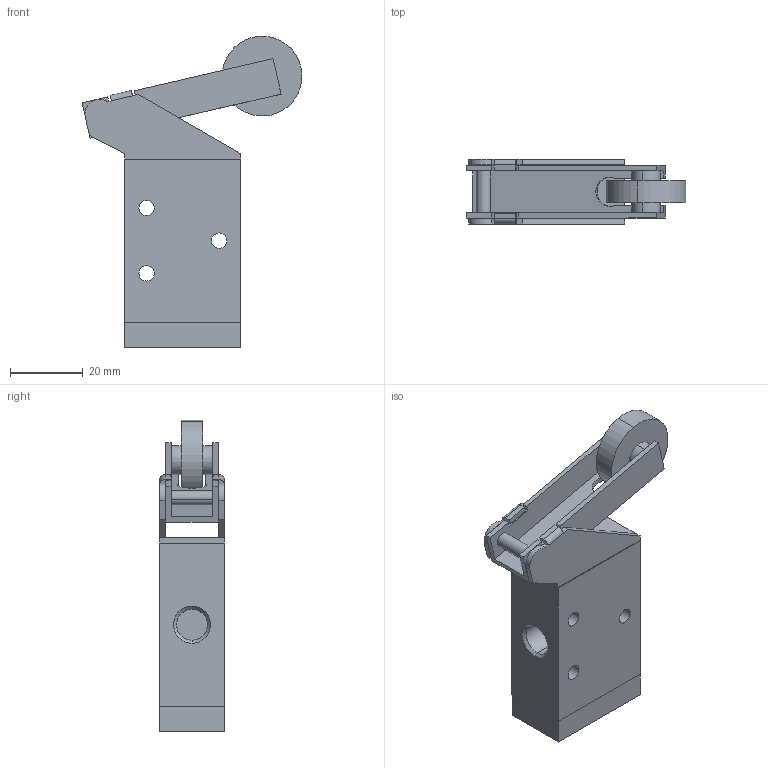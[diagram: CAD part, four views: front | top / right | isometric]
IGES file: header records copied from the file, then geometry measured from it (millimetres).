
Global section: file name: No Iges File Name specified; native system: AutoDesk Inventor R11.0; preprocessor: AutoDesk Inventor Iges Exporter R11.0; author: No Author specified; organization: No Organization specified; date: 20061219.113742; units: millimetre
Bounding box: 60.6 x 18 x 85.83 mm (x, y, z)
Volume: 34731.3 mm3; surface area: 15557 mm2
Topology: 3 solids, 3 shells, 110 faces, 264 edges, 168 vertices
Faces by surface type: plane 64, bspline 27, cylinder 12, revolution 7
